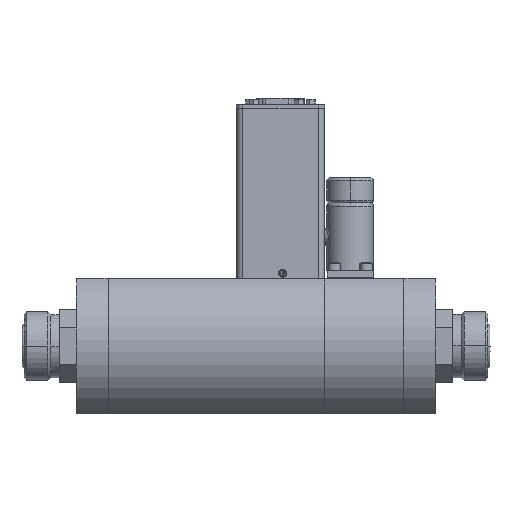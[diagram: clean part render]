
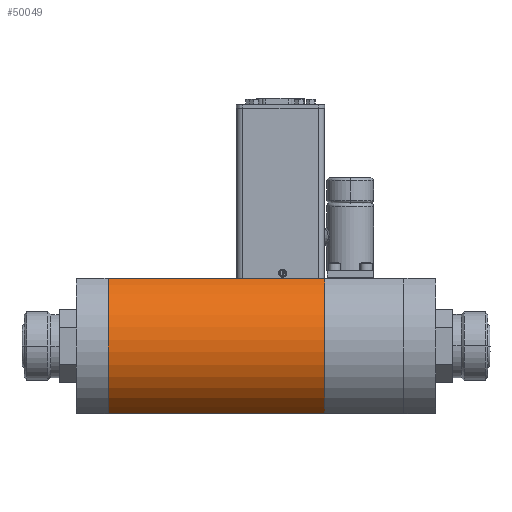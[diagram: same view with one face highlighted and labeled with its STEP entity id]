
A CAD part, top view. The second image highlights one B-rep face of the part: STEP entity #50049.
In plain terms, the highlighted cylindrical face has radius 42 mm (diameter 84 mm), a partial arc.
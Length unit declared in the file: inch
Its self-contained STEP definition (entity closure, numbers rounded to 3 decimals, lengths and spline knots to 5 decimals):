
#622 = EDGE_CURVE ( 'NONE', #14207, #35841, #33285, .T. ) ;
#3434 = EDGE_LOOP ( 'NONE', ( #46828, #63593, #44169, #48448 ) ) ;
#4841 = DIRECTION ( 'NONE',  ( 1., 0., 0. ) ) ;
#4881 = VECTOR ( 'NONE', #17166, 39.37008 ) ;
#5463 = AXIS2_PLACEMENT_3D ( 'NONE', #7873, #8504, #28253 ) ;
#7873 = CARTESIAN_POINT ( 'NONE',  ( 1.5, 1.4685, 0.01239 ) ) ;
#8504 = DIRECTION ( 'NONE',  ( -1., 0., 0. ) ) ;
#11665 = CARTESIAN_POINT ( 'NONE',  ( -13.22441, 2.93701, 0.77246 ) ) ;
#14207 = VERTEX_POINT ( 'NONE', #47331 ) ;
#16341 = DIRECTION ( 'NONE',  ( 0., 1., 0. ) ) ;
#17166 = DIRECTION ( 'NONE',  ( -1., 0., 0. ) ) ;
#18587 = EDGE_CURVE ( 'NONE', #35841, #40310, #30480, .T. ) ;
#19371 = CARTESIAN_POINT ( 'NONE',  ( -3.22441, 1.4685, 0.01239 ) ) ;
#21753 = CARTESIAN_POINT ( 'NONE',  ( -3.22441, 0., 0.77246 ) ) ;
#23579 = FACE_OUTER_BOUND ( 'NONE', #3434, .T. ) ;
#25667 = AXIS2_PLACEMENT_3D ( 'NONE', #49974, #44500, #16341 ) ;
#25675 = DIRECTION ( 'NONE',  ( 1., 0., 0. ) ) ;
#28253 = DIRECTION ( 'NONE',  ( 0., 1., 0. ) ) ;
#28777 = CIRCLE ( 'NONE', #25667, 1.65354 ) ;
#30480 = LINE ( 'NONE', #11665, #4881 ) ;
#33285 = CIRCLE ( 'NONE', #5463, 1.65354 ) ;
#34877 = CARTESIAN_POINT ( 'NONE',  ( -3.22441, 0., 0.77246 ) ) ;
#34924 = EDGE_CURVE ( 'NONE', #38607, #14207, #50227, .T. ) ;
#35841 = VERTEX_POINT ( 'NONE', #48065 ) ;
#36151 = VECTOR ( 'NONE', #25675, 39.37008 ) ;
#36423 = CARTESIAN_POINT ( 'NONE',  ( -3.22441, 2.93701, 0.77246 ) ) ;
#38438 = DIRECTION ( 'NONE',  ( 0., 1., 0. ) ) ;
#38607 = VERTEX_POINT ( 'NONE', #34877 ) ;
#40310 = VERTEX_POINT ( 'NONE', #36423 ) ;
#44169 = ORIENTED_EDGE ( 'NONE', *, *, #34924, .T. ) ;
#44500 = DIRECTION ( 'NONE',  ( -1., 0., 0. ) ) ;
#46828 = ORIENTED_EDGE ( 'NONE', *, *, #18587, .T. ) ;
#47331 = CARTESIAN_POINT ( 'NONE',  ( 1.5, 0., 0.77246 ) ) ;
#48065 = CARTESIAN_POINT ( 'NONE',  ( 1.5, 2.93701, 0.77246 ) ) ;
#48448 = ORIENTED_EDGE ( 'NONE', *, *, #622, .T. ) ;
#49974 = CARTESIAN_POINT ( 'NONE',  ( -3.22441, 1.4685, 0.01239 ) ) ;
#50049 = ADVANCED_FACE ( 'NONE', ( #23579 ), #63687, .T. ) ;
#50227 = LINE ( 'NONE', #21753, #36151 ) ;
#53850 = EDGE_CURVE ( 'NONE', #38607, #40310, #28777, .T. ) ;
#55342 = AXIS2_PLACEMENT_3D ( 'NONE', #19371, #4841, #38438 ) ;
#63593 = ORIENTED_EDGE ( 'NONE', *, *, #53850, .F. ) ;
#63687 = CYLINDRICAL_SURFACE ( 'NONE', #55342, 1.65354 ) ;
